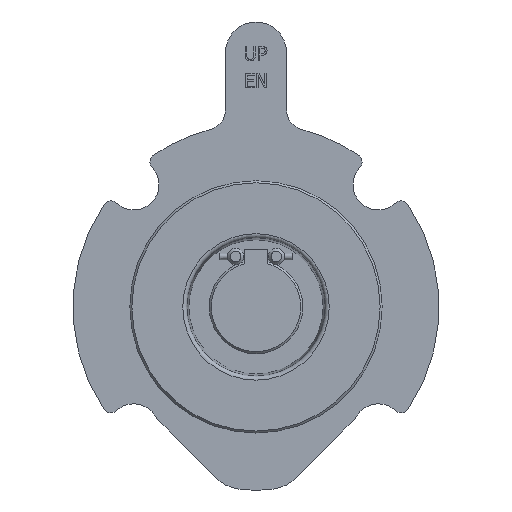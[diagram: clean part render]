
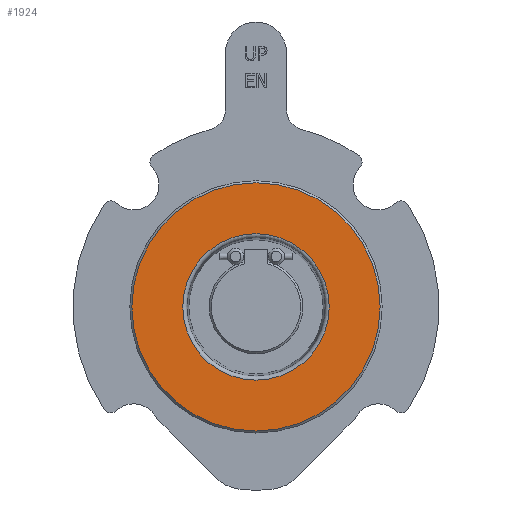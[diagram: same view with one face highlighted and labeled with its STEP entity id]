
A CAD part, front view. The second image highlights one B-rep face of the part: STEP entity #1924.
In plain terms, the highlighted planar face has unit normal (0, -1, 0).
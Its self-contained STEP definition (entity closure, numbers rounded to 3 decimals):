
#441=PLANE('',#2048);
#505=FACE_BOUND('',#665,.T.);
#543=FACE_OUTER_BOUND('',#664,.T.);
#664=EDGE_LOOP('',(#1368));
#665=EDGE_LOOP('',(#1369));
#821=CIRCLE('',#2047,17.999);
#822=CIRCLE('',#2049,30.5);
#895=VERTEX_POINT('',#2751);
#896=VERTEX_POINT('',#2754);
#1089=EDGE_CURVE('',#895,#895,#821,.T.);
#1090=EDGE_CURVE('',#896,#896,#822,.T.);
#1368=ORIENTED_EDGE('',*,*,#1090,.F.);
#1369=ORIENTED_EDGE('',*,*,#1089,.F.);
#1924=ADVANCED_FACE('',(#543,#505),#441,.F.);
#2047=AXIS2_PLACEMENT_3D('',#2752,#2229,#2230);
#2048=AXIS2_PLACEMENT_3D('',#2753,#2231,#2232);
#2049=AXIS2_PLACEMENT_3D('',#2755,#2233,#2234);
#2229=DIRECTION('center_axis',(0.,-1.,0.));
#2230=DIRECTION('ref_axis',(0.,0.,-1.));
#2231=DIRECTION('center_axis',(0.,1.,0.));
#2232=DIRECTION('ref_axis',(0.,0.,1.));
#2233=DIRECTION('center_axis',(0.,1.,0.));
#2234=DIRECTION('ref_axis',(-1.,0.,0.));
#2751=CARTESIAN_POINT('',(0.,-6.,17.999));
#2752=CARTESIAN_POINT('Origin',(0.,-6.,0.));
#2753=CARTESIAN_POINT('Origin',(0.,-6.,0.));
#2754=CARTESIAN_POINT('',(30.5,-6.,0.));
#2755=CARTESIAN_POINT('Origin',(0.,-6.,0.));
